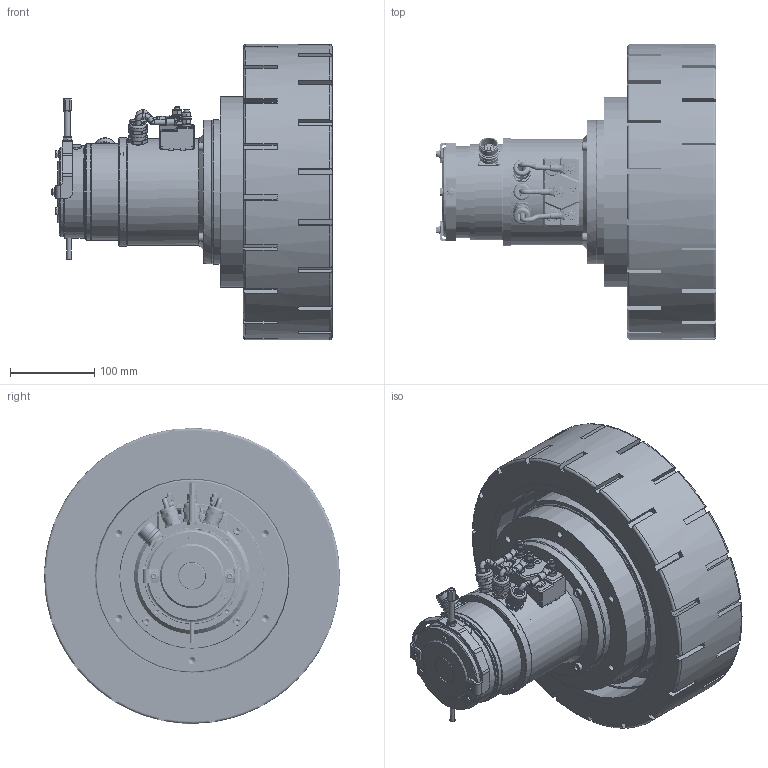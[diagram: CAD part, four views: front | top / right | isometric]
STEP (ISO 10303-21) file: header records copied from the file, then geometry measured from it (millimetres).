
FILE_DESCRIPTION(/* description */ (''),/* implementation_level */ '2;1');
FILE_NAME(/* name */ 'Z:\SITO WEB 2024\Dual Drive\MRH182\MRH182 BL D.350 mm\MRH182.BL.D350.stp',/* time_stamp */ '2024-03-15T08:27:59+01:00',/* author */ ('cad3'),/* organization */ (''),/* preprocessor_version */ 'ST-DEVELOPER v18.1',/* originating_system */ 'Autodesk Inventor 2022',/* authorisation */ '');
FILE_SCHEMA (('AUTOMOTIVE_DESIGN { 1 0 10303 214 3 1 1 }'));
Products named in the file (1): MRH182.BL.D350
Bounding box: 331.5 x 349.96 x 349.96 mm (x, y, z)
Volume: 9712361.4 mm3; surface area: 1121771.1 mm2
Topology: 7 solids, 44 shells, 3087 faces, 7704 edges, 4871 vertices
Faces by surface type: plane 1453, cylinder 756, cone 372, bspline 295, torus 164, sphere 47
Full cylindrical faces by diameter (mm): 0.9 x12, 2 x5, 2.9 x8, 3.2 x4, 3.242 x11, 4 x4, 4.134 x13, 4.3 x6, 4.5 x3, 4.625 x1, 4.917 x1, 5 x19, 5.2 x21, 5.5 x9, 5.637 x1, 6 x26, 6.2 x6, 6.5 x4, 6.647 x3, 6.88 x3, 6.917 x3, 7 x3, 7.1 x1, 7.8 x1, 8 x11, 8.4 x5, 8.5 x14, 9 x16, 9.64 x2, 10 x9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
Entity records: 110332 total; most frequent: CARTESIAN_POINT 35225, ORIENTED_EDGE 15242, DIRECTION 14539, EDGE_CURVE 7621, AXIS2_PLACEMENT_3D 5469, VERTEX_POINT 4870, LINE 3601, VECTOR 3601
